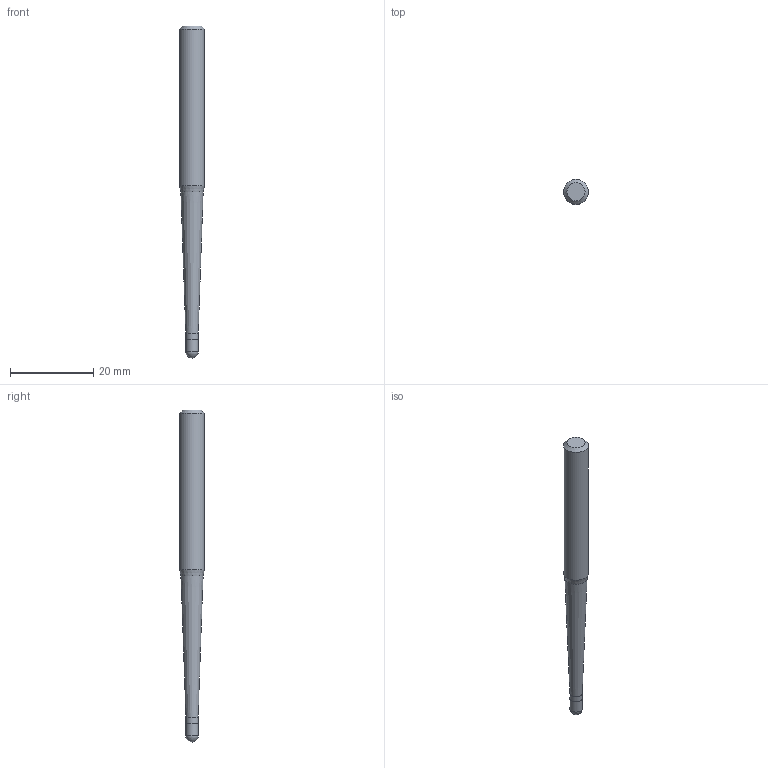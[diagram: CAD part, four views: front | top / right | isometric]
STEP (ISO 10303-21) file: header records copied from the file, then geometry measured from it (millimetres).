
FILE_DESCRIPTION((''),'2;1');
FILE_NAME('C:\Users\nsx150\AppData\Local\Temp\Mastercam 2021\E0ENTZRV18\TEMP.step','2021-09-02T09:57:30',(''),(''),'STEP Write','Mastercam 2021 ... CNC Software, Inc.','');
FILE_SCHEMA(('AUTOMOTIVE_DESIGN'));
Length unit declared in the file: millimetre
Products named in the file (1): None
Bounding box: 6 x 6 x 80 mm (x, y, z)
Volume: 1638.1 mm3; surface area: 1288.4 mm2
Topology: 2 solids, 2 shells, 10 faces, 16 edges, 9 vertices
Faces by surface type: plane 3, cylinder 3, cone 3, sphere 1
Full cylindrical faces by diameter (mm): 2.98 x1, 3 x1, 6 x1
Entity records: 232 total; most frequent: DIRECTION 40, CARTESIAN_POINT 28, AXIS2_PLACEMENT_3D 20, ORIENTED_EDGE 16, EDGE_LOOP 16, STYLED_ITEM 13, ADVANCED_FACE 10, FACE_BOUND 9
